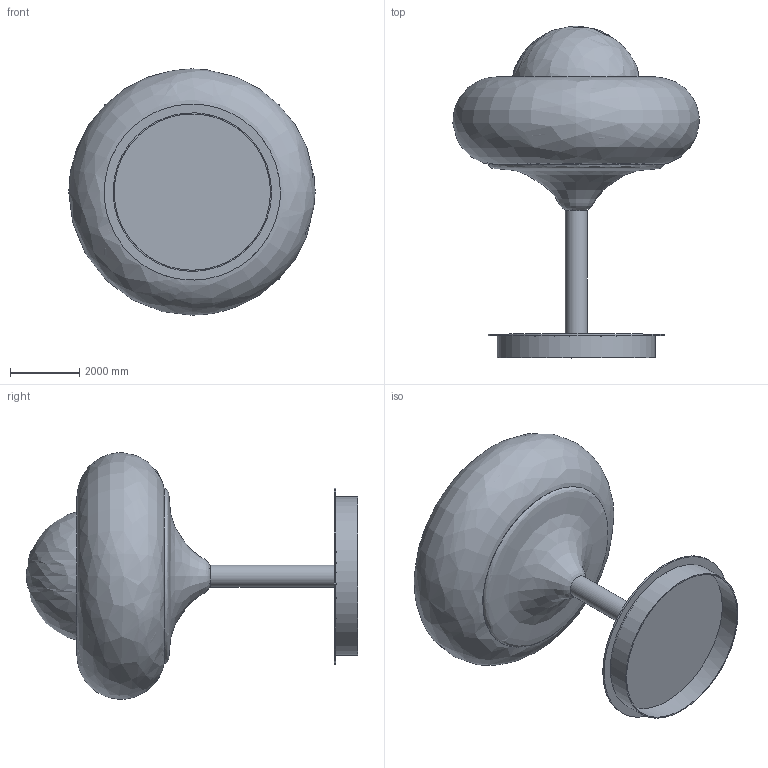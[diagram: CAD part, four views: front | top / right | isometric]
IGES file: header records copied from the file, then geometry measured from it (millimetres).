
Global section: file name: Harvey Table Lamp; native system: AutoCAD 2022 - 简体中文 (Simplified Chinese),62HAuto; preprocessor: desk Translation Framework DWG producer (atf_dwg_producer); organization: unknown; date: 20250428.114130; units: inch
Bounding box: 7107.34 x 9577.33 x 7106.18 mm (x, y, z)
Volume: 9403007451.9 mm3; surface area: 439886196.4 mm2
Topology: 11 solids, 11 shells, 47 faces, 86 edges, 62 vertices
Faces by surface type: bspline 47
